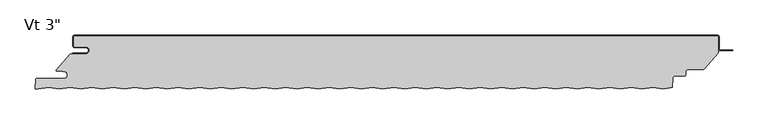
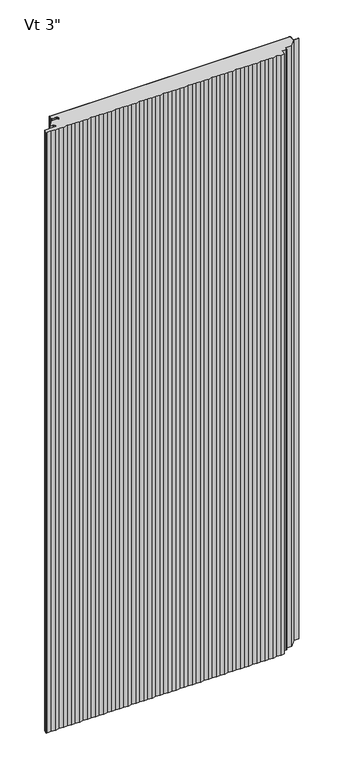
"""IFC4 building model written with IfcOpenShell, lengths in millimetres: plate geometry."""

from ifc_helpers import new_model, si_unit, point, frame_2d, origin, origin_with_axes, place, context, project, spatial, polyline, circle_curve, trimmed, segment, composite_curve, outline, extrude, source, transform, mapped, element, save


def plate_975cc697(model_context):
    return source(origin(), model_context, "Body", "SweptSolid", [
        extrude(outline(composite_curve([segment(polyline([(-438.14375, -16.4625), (-454.01875, -16.4625)]), True, "CONTINUOUS"), segment(trimmed(circle_curve(frame_2d((-454.01875, -15.08125)), 1.38125), [point((-454.01875, -16.4625))], [point((-455.4, -15.08125))], False, "CARTESIAN"), True, "CONTINUOUS"), segment(polyline([(-455.4, -15.08125), (-455.4, -2.38125)]), True, "CONTINUOUS"), segment(trimmed(circle_curve(frame_2d((-454.01875, -2.38125)), 1.38125), [point((-455.4, -2.38125))], [point((-454.01875, -1.0))], False, "CARTESIAN"), True, "CONTINUOUS"), segment(polyline([(-454.01875, -1.0), (454.03125, -1.0)]), True, "CONTINUOUS"), segment(trimmed(circle_curve(frame_2d((454.03125, -2.38125)), 1.38125), [point((454.03125, -1.0))], [point((455.4125, -2.38125))], False, "CARTESIAN"), True, "CONTINUOUS"), segment(polyline([(455.4125, -2.38125), (455.4125, -24.9057308), (434.5955434, -48.2125), (412.1540783, -48.2125)]), True, "CONTINUOUS"), segment(trimmed(circle_curve(frame_2d((412.1540783, -50.8)), 2.5875), [point((412.1540783, -48.2125))], [point((409.5701244, -50.6645807))], True, "CARTESIAN"), True, "CONTINUOUS"), segment(polyline([(409.5701244, -50.6645807), (409.2680481, -56.428539)]), True, "CONTINUOUS"), segment(trimmed(circle_curve(frame_2d((407.8886911, -56.35625)), 1.38125), [point((409.2680481, -56.428539))], [point((407.8886911, -57.7375))], False, "CARTESIAN"), True, "CONTINUOUS"), segment(polyline([(407.8886911, -57.7375), (393.7323847, -57.7375)]), True, "CONTINUOUS"), segment(trimmed(circle_curve(frame_2d((393.7323847, -60.325)), 2.5875), [point((393.7323847, -57.7375))], [point((391.1484307, -60.1895807))], True, "CARTESIAN"), True, "CONTINUOUS"), segment(polyline([(391.1484307, -60.1895807), (390.4106485, -74.2673048), (377.6725, -76.3054086), (362.6350675, -73.8994194), (347.3950675, -76.3378194), (332.1550675, -73.8994194), (316.9150675, -76.3378194), (301.6750675, -73.8994194), (286.4350675, -76.3378194), (271.1950675, -73.8994194), (255.9550675, -76.3378194), (240.7150675, -73.8994194), (225.4750675, -76.3378194), (210.2350675, -73.8994194), (194.9950675, -76.3378194), (179.7550675, -73.8994194), (164.5150675, -76.3378194), (149.2750675, -73.8994194), (134.0350675, -76.3378194), (118.7950675, -73.8994194), (103.5550675, -76.3378194), (88.3150675, -73.8994194), (73.0750675, -76.3378194), (57.8350675, -73.8994194), (42.5950675, -76.3378194), (27.3550675, -73.8994194), (12.1150675, -76.3378194), (-3.1249325, -73.8994194), (-18.3649325, -76.3378194), (-33.6049325, -73.8994194), (-48.8449325, -76.3378194), (-64.0849325, -73.8994194), (-79.3249325, -76.3378194), (-94.5649325, -73.8994194), (-109.8049325, -76.3378194), (-125.0449325, -73.8994194), (-140.2849325, -76.3378194), (-155.5249325, -73.8994194), (-170.7649325, -76.3378194), (-186.0049325, -73.8994194), (-201.2449325, -76.3378194), (-216.4849325, -73.8994194), (-231.7249325, -76.3378194), (-246.9649325, -73.8994194), (-262.2049325, -76.3378194), (-277.4449325, -73.8994194), (-292.6849325, -76.3378194), (-307.9249325, -73.8994194), (-323.1649325, -76.3378194), (-338.4049325, -73.8994194), (-353.6449325, -76.3378194), (-368.8849325, -73.8994194), (-384.1249325, -76.3378194), (-399.3649325, -73.8994194), (-414.6049325, -76.3378194), (-429.8449325, -73.8994194), (-445.0849325, -76.3378194), (-460.3249325, -73.8994194), (-475.5649325, -76.3378194), (-490.8049325, -73.8994194), (-506.0449325, -76.3378194), (-509.3672594, -75.8062471), (-508.6769291, -62.633961)]), True, "CONTINUOUS"), segment(trimmed(circle_curve(frame_2d((-507.2975721, -62.70625)), 1.38125), [point((-508.6769291, -62.633961))], [point((-507.2975721, -61.325))], False, "CARTESIAN"), True, "CONTINUOUS"), segment(polyline([(-507.2975721, -61.325), (-469.1142674, -61.325)]), True, "CONTINUOUS"), segment(trimmed(circle_curve(frame_2d((-469.1142674, -56.35625)), 4.96875), [point((-469.1142674, -61.325))], [point((-469.1142674, -51.3875))], True, "CARTESIAN"), True, "CONTINUOUS"), segment(polyline([(-469.1142674, -51.3875), (-470.7017674, -51.59375), (-470.7017674, -50.8), (-480.2125, -50.8), (-480.2125, -49.2157227), (-460.3260922, -26.4), (-438.14375, -26.4)]), True, "CONTINUOUS"), segment(trimmed(circle_curve(frame_2d((-438.14375, -21.43125)), 4.96875), [point((-438.14375, -26.4))], [point((-438.14375, -16.4625))], True, "CARTESIAN"), True, "CONTINUOUS")], self_intersect=False)), origin_with_axes(), (0.0, 0.0, 1.0), 2400.0),
        extrude(outline(composite_curve([segment(polyline([(-456.4, -25.4), (-438.14375, -25.4)]), True, "CONTINUOUS"), segment(trimmed(circle_curve(frame_2d((-438.14375, -21.43125)), 3.96875), [point((-438.14375, -25.4))], [point((-438.14375, -17.4625))], True, "CARTESIAN"), True, "CONTINUOUS"), segment(polyline([(-438.14375, -17.4625), (-454.01875, -17.4625)]), True, "CONTINUOUS"), segment(trimmed(circle_curve(frame_2d((-454.01875, -15.08125)), 2.38125), [point((-454.01875, -17.4625))], [point((-456.4, -15.08125))], False, "CARTESIAN"), True, "CONTINUOUS"), segment(polyline([(-456.4, -15.08125), (-456.4, -2.38125)]), True, "CONTINUOUS"), segment(trimmed(circle_curve(frame_2d((-454.01875, -2.38125)), 2.38125), [point((-456.4, -2.38125))], [point((-454.01875, 0.0))], False, "CARTESIAN"), True, "CONTINUOUS"), segment(polyline([(-454.01875, 0.0), (454.03125, 0.0)]), True, "CONTINUOUS"), segment(trimmed(circle_curve(frame_2d((454.03125, -2.38125)), 2.38125), [point((454.03125, 0.0))], [point((456.4125, -2.38125))], False, "CARTESIAN"), True, "CONTINUOUS"), segment(polyline([(456.4125, -2.38125), (456.4125, -19.446875)]), True, "CONTINUOUS"), segment(trimmed(circle_curve(frame_2d((458.0, -19.446875)), 1.5875), [point((456.4125, -19.446875))], [point((458.0, -21.034375))], True, "CARTESIAN"), True, "CONTINUOUS"), segment(polyline([(458.0, -21.034375), (475.4625, -21.034375), (475.4625, -22.034375), (458.0, -22.034375)]), True, "CONTINUOUS"), segment(trimmed(circle_curve(frame_2d((458.0, -19.446875)), 2.5875), [point((458.0, -22.034375))], [point((455.4125, -19.446875))], False, "CARTESIAN"), True, "CONTINUOUS"), segment(polyline([(455.4125, -19.446875), (455.4125, -2.38125)]), True, "CONTINUOUS"), segment(trimmed(circle_curve(frame_2d((454.03125, -2.38125)), 1.38125), [point((455.4125, -2.38125))], [point((454.03125, -1.0))], True, "CARTESIAN"), True, "CONTINUOUS"), segment(polyline([(454.03125, -1.0), (-454.01875, -1.0)]), True, "CONTINUOUS"), segment(trimmed(circle_curve(frame_2d((-454.01875, -2.38125)), 1.38125), [point((-454.01875, -1.0))], [point((-455.4, -2.38125))], True, "CARTESIAN"), True, "CONTINUOUS"), segment(polyline([(-455.4, -2.38125), (-455.4, -15.08125)]), True, "CONTINUOUS"), segment(trimmed(circle_curve(frame_2d((-454.01875, -15.08125)), 1.38125), [point((-455.4, -15.08125))], [point((-454.01875, -16.4625))], True, "CARTESIAN"), True, "CONTINUOUS"), segment(polyline([(-454.01875, -16.4625), (-438.14375, -16.4625)]), True, "CONTINUOUS"), segment(trimmed(circle_curve(frame_2d((-438.14375, -21.43125)), 4.96875), [point((-438.14375, -16.4625))], [point((-438.14375, -26.4))], False, "CARTESIAN"), True, "CONTINUOUS"), segment(polyline([(-438.14375, -26.4), (-456.4, -26.4), (-456.4, -25.4)]), True, "CONTINUOUS")], self_intersect=False)), origin_with_axes(), (0.0, 0.0, 1.0), 2400.0),
    ])


if __name__ == "__main__":
    model = new_model("IFC4")
    model_context = context("Model", 3, world=origin())
    ifc_project = project(units=[si_unit("LENGTHUNIT", "METRE", prefix="MILLI")], contexts=[model_context])
    site = spatial("IfcSite", under=ifc_project)
    building = spatial("IfcBuilding", under=site)
    placement = place(None, origin())
    plate_shape = plate_975cc697(model_context)
    element("IfcPlate", 1, ObjectType="KIP-36-DWHR-R19-CP-Vt-S : Vt 3\"", at=placement, inside=building, context=model_context, shape_type="MappedRepresentation", body=[
        mapped(plate_shape, transform((0.0, 0.0, 0.0), x_axis=(1.0, 0.0, 0.0), y_axis=(0.0, 1.0, 0.0), z_axis=(0.0, 0.0, 1.0))),
    ])
    save(model, "model.ifc")
